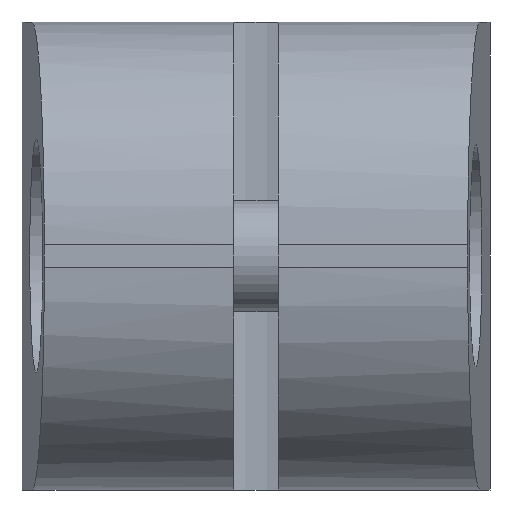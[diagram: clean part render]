
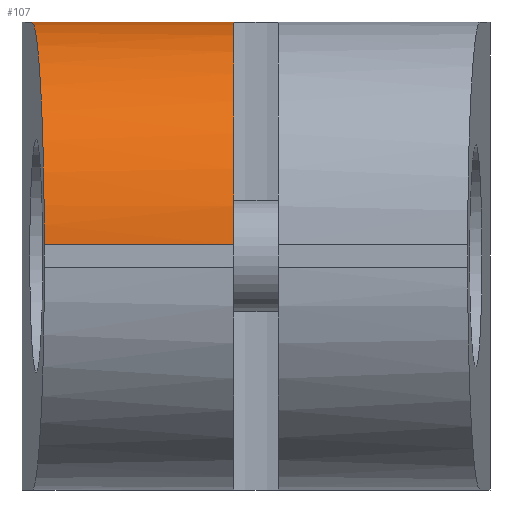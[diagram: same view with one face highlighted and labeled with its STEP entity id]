
A CAD part, left-side view. The second image highlights one B-rep face of the part: STEP entity #107.
In plain terms, the highlighted cylindrical face has radius 10 mm (diameter 20 mm), a partial arc.
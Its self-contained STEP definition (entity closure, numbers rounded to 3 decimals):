
#107 = ADVANCED_FACE( '', ( #254 ), #255, .T. );
#254 = FACE_OUTER_BOUND( '', #484, .T. );
#255 = CYLINDRICAL_SURFACE( '', #485, 10. );
#484 = EDGE_LOOP( '', ( #861, #862, #863, #864 ) );
#485 = AXIS2_PLACEMENT_3D( '', #865, #866, #867 );
#861 = ORIENTED_EDGE( '', *, *, #1496, .T. );
#862 = ORIENTED_EDGE( '', *, *, #1497, .F. );
#863 = ORIENTED_EDGE( '', *, *, #1498, .T. );
#864 = ORIENTED_EDGE( '', *, *, #1499, .F. );
#865 = CARTESIAN_POINT( '', ( -8., 21., 0.5 ) );
#866 = DIRECTION( '', ( 0., 1., 0. ) );
#867 = DIRECTION( '', ( 0., 0., -1. ) );
#1496 = EDGE_CURVE( '', #1801, #1802, #1803, .T. );
#1497 = EDGE_CURVE( '', #1804, #1802, #1805, .F. );
#1498 = EDGE_CURVE( '', #1804, #1806, #1807, .F. );
#1499 = EDGE_CURVE( '', #1801, #1806, #1808, .F. );
#1801 = VERTEX_POINT( '', #2268 );
#1802 = VERTEX_POINT( '', #2269 );
#1803 = LINE( '', #2270, #2271 );
#1804 = VERTEX_POINT( '', #2272 );
#1805 = CIRCLE( '', #2273, 10. );
#1806 = VERTEX_POINT( '', #2274 );
#1807 = LINE( '', #2275, #2276 );
#1808 = ELLIPSE( '', #2277, 10.015, 10. );
#2268 = CARTESIAN_POINT( '', ( -18., 9.5, 0.5 ) );
#2269 = CARTESIAN_POINT( '', ( -18., 1., 0.5 ) );
#2270 = CARTESIAN_POINT( '', ( -18., 21., 0.5 ) );
#2271 = VECTOR( '', #2774, 1000. );
#2272 = CARTESIAN_POINT( '', ( -8., 1., 10.5 ) );
#2273 = AXIS2_PLACEMENT_3D( '', #2775, #2776, #2777 );
#2274 = CARTESIAN_POINT( '', ( -8., 10.056, 10.5 ) );
#2275 = CARTESIAN_POINT( '', ( -8., 21., 10.5 ) );
#2276 = VECTOR( '', #2778, 1000. );
#2277 = AXIS2_PLACEMENT_3D( '', #2779, #2780, #2781 );
#2774 = DIRECTION( '', ( 0., -1., 0. ) );
#2775 = CARTESIAN_POINT( '', ( -8., 1., 0.5 ) );
#2776 = DIRECTION( '', ( 0., 1., 0. ) );
#2777 = DIRECTION( '', ( 0., 0., 1. ) );
#2778 = DIRECTION( '', ( 0., -1., 0. ) );
#2779 = CARTESIAN_POINT( '', ( -8., 10.056, 0.5 ) );
#2780 = DIRECTION( '', ( 0.055, -0.998, 0. ) );
#2781 = DIRECTION( '', ( -0.998, -0.055, 0. ) );
